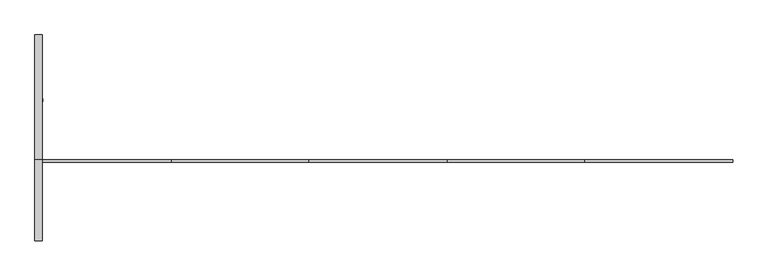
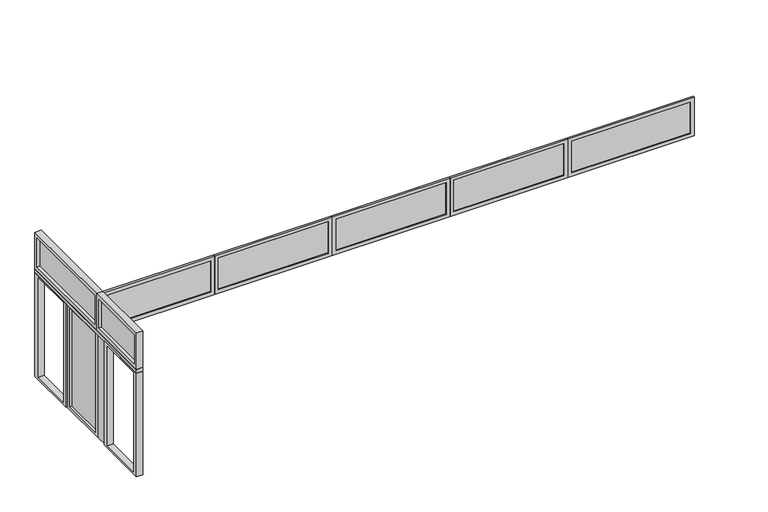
"""IFC4 building model written with IfcOpenShell, lengths in millimetres: beam geometry, partition and doors-CONFIG-4 : partition and doors-CONFIG-4."""

import ifcopenshell
import ifcopenshell.guid

model = None  # the IFC model being written
_history = None  # IfcOwnerHistory: only IFC2X3 demands one
_inside = {}  # id of a spatial element -> (the spatial element, [elements in it])
_under = {}  # id of a project, library or spatial element -> (it, [spatial elements below it])
_declared = {}  # id of a project -> (the project, [libraries it declares])
_typed = {}  # id of a type object -> (the type object, [elements of that type])
_made_of = {}  # id of a material, layer set ... -> (it, [elements and type objects made of it])


def new_model(schema):
    """Start an empty IFC model of exactly this schema.

    Asked for "IFC4X3", IfcOpenShell would pick the latest addendum, in which some entities
    have other attributes; the version numbers below select the first issue.
    IFC2X3 requires an IfcOwnerHistory on every rooted entity: one is made here for all.
    """
    global model, _history
    if schema == "IFC4X3":
        model = ifcopenshell.file(schema_version=(4, 3, 0, 0))
    else:
        model = ifcopenshell.file(schema=schema)
    _inside.clear()
    _under.clear()
    _declared.clear()
    _typed.clear()
    _made_of.clear()
    _history = None
    if model.schema == "IFC2X3":
        org = make("IfcOrganization", Name="unknown")
        user = make(
            "IfcPersonAndOrganization",
            ThePerson=make("IfcPerson", FamilyName="unknown"),
            TheOrganization=org,
        )
        app = make(
            "IfcApplication",
            ApplicationDeveloper=org,
            Version="unknown",
            ApplicationFullName="unknown",
            ApplicationIdentifier="unknown",
        )
        _history = make(
            "IfcOwnerHistory",
            OwningUser=user,
            OwningApplication=app,
            ChangeAction="ADDED",
            CreationDate=0,
        )
    return model


def make(cls, **values):
    """One entity of the class cls with the attributes given. An attribute that is None is left unset."""
    return model.create_entity(
        cls, **{name: value for name, value in values.items() if value is not None}
    )


def rooted(cls, **values):
    """An entity with a GlobalId (a new one), such as an element, a storey or a relation."""
    return make(cls, GlobalId=ifcopenshell.guid.new(), OwnerHistory=_history, **values)


def si_unit(unit_type, name, prefix=None):
    """IfcSIUnit, for example si_unit("LENGTHUNIT", "METRE", prefix="MILLI")."""
    return make("IfcSIUnit", UnitType=unit_type, Prefix=prefix, Name=name)


def assignment(units):
    """IfcUnitAssignment: the units of a project."""
    return None if units is None else make("IfcUnitAssignment", Units=units)


def point(xyz):
    """IfcCartesianPoint."""
    return None if xyz is None else make("IfcCartesianPoint", Coordinates=xyz)


def direction(xyz):
    """IfcDirection."""
    return None if xyz is None else make("IfcDirection", DirectionRatios=xyz)


def frame(location, z_axis=None, x_axis=None):
    """IfcAxis2Placement3D, a coordinate frame: its origin and axes. An axis left out is left unset."""
    return make(
        "IfcAxis2Placement3D",
        Location=point(location),
        Axis=direction(z_axis),
        RefDirection=direction(x_axis),
    )


def origin():
    """The frame at (0, 0, 0) with its axes left unset."""
    return frame((0.0, 0.0, 0.0))


def place(relative_to, where):
    """IfcLocalPlacement: puts the frame where relative to a parent placement (None: the world)."""
    return make(
        "IfcLocalPlacement", PlacementRelTo=relative_to, RelativePlacement=where
    )


def context(
    kind, dimensions, precision=None, world=None, true_north=None, identifier=None
):
    """IfcGeometricRepresentationContext, for example the 3D "Model" context."""
    return make(
        "IfcGeometricRepresentationContext",
        ContextIdentifier=identifier,
        ContextType=kind,
        CoordinateSpaceDimension=dimensions,
        Precision=precision,
        WorldCoordinateSystem=world,
        TrueNorth=true_north,
    )


def project(units=None, contexts=None):
    """IfcProject with its units and contexts."""
    return rooted(
        "IfcProject",
        Name="project",
        RepresentationContexts=contexts,
        UnitsInContext=assignment(units),
    )


def spatial(cls, under=None, at=None, **own):
    """A site, building, storey or space (cls), placed at a placement, below another one or the project."""
    s = rooted(cls, ObjectPlacement=at, **own)
    if under is not None:
        _under.setdefault(under.id(), (under, []))[1].append(s)
    return s


def polyline(points):
    """IfcPolyline through the points."""
    return make("IfcPolyline", Points=[point(p) for p in points])


def outline(outer, holes=None, kind="AREA"):
    """IfcArbitraryClosedProfileDef: a profile drawn as a closed curve; with holes, ...WithVoids."""
    if holes is None:
        return make("IfcArbitraryClosedProfileDef", ProfileType=kind, OuterCurve=outer)
    return make(
        "IfcArbitraryProfileDefWithVoids",
        ProfileType=kind,
        OuterCurve=outer,
        InnerCurves=holes,
    )


def extrude(swept, where, along, depth):
    """IfcExtrudedAreaSolid: the profile swept, set in the frame where, extruded along a direction by depth."""
    return make(
        "IfcExtrudedAreaSolid",
        SweptArea=swept,
        Position=where,
        ExtrudedDirection=direction(along),
        Depth=depth,
    )


def shape(context_of_items, identifier, shape_type, items):
    """IfcShapeRepresentation: the items that make up one representation, for example the "Body"."""
    return make(
        "IfcShapeRepresentation",
        ContextOfItems=context_of_items,
        RepresentationIdentifier=identifier,
        RepresentationType=shape_type,
        Items=items,
    )


def source(mapping_origin, context_of_items, identifier, shape_type, items):
    """IfcRepresentationMap: a shape defined once, which mapped items show again and again."""
    return make(
        "IfcRepresentationMap",
        MappingOrigin=mapping_origin,
        MappedRepresentation=shape(context_of_items, identifier, shape_type, items),
    )


def transform(
    local_origin,
    x_axis=None,
    y_axis=None,
    z_axis=None,
    scale=None,
    scale2=None,
    scale3=None,
    uniform=True,
):
    """IfcCartesianTransformationOperator3D, or its non-uniform kind. x_axis, y_axis, z_axis: its Axis1, 2, 3."""
    if uniform:
        return make(
            "IfcCartesianTransformationOperator3D",
            Axis1=direction(x_axis),
            Axis2=direction(y_axis),
            LocalOrigin=point(local_origin),
            Scale=scale,
            Axis3=direction(z_axis),
        )
    return make(
        "IfcCartesianTransformationOperator3DnonUniform",
        Axis1=direction(x_axis),
        Axis2=direction(y_axis),
        LocalOrigin=point(local_origin),
        Scale=scale,
        Axis3=direction(z_axis),
        Scale2=scale2,
        Scale3=scale3,
    )


def mapped(mapping_source, mapping_target):
    """IfcMappedItem: shows the shape of a source again, moved by a transform."""
    return make(
        "IfcMappedItem", MappingSource=mapping_source, MappingTarget=mapping_target
    )


def made_of(thing, what):
    """Note that an element or type object is made of a material, layer set ...; save() writes the relation."""
    if what is not None:
        _made_of.setdefault(what.id(), (what, []))[1].append(thing)
    return thing


def element(
    cls,
    number,
    at=None,
    inside=None,
    cuts=None,
    type_object=None,
    material=None,
    context=None,
    identifier="Body",
    shape_type=None,
    held_by="IfcProductDefinitionShape",
    body=None,
    shapes=None,
    **own,
):
    """One element of the class cls, such as IfcWall. Its Tag is "e" and its number.

    at: its placement. inside: the storey or other place that contains it. cuts: it is an
    opening in that element (IfcRelVoidsElement). A single representation is given by context,
    identifier, shape_type and body (its items); several are given by shapes. held_by: the class
    of the entity that holds the representations. save() writes the other relations.
    """
    e = rooted(cls, Tag="e%d" % number, ObjectPlacement=at, **own)
    if body is not None:
        shapes = [shape(context, identifier, shape_type, body)]
    if shapes is not None:
        e.Representation = make(held_by, Representations=shapes)
    if inside is not None:
        _inside.setdefault(inside.id(), (inside, []))[1].append(e)
    if cuts is not None:
        rooted(
            "IfcRelVoidsElement", RelatingBuildingElement=cuts, RelatedOpeningElement=e
        )
    if type_object is not None:
        _typed.setdefault(type_object.id(), (type_object, []))[1].append(e)
    return made_of(e, material)


def aggregate(whole, parts):
    """IfcRelAggregates: a whole, such as a stair, and the parts it consists of."""
    return rooted("IfcRelAggregates", RelatingObject=whole, RelatedObjects=parts)


def save(model, path):
    """Write the relations noted so far, then the file.

    IfcRelAggregates (storeys below a building ...), IfcRelContainedInSpatialStructure (elements
    in a storey), IfcRelDefinesByType, IfcRelAssociatesMaterial and IfcRelDeclares: one each for
    every whole, place, type object, material and project.
    """
    for whole, parts in _under.values():
        aggregate(whole, parts)
    for where, things in _inside.values():
        rooted(
            "IfcRelContainedInSpatialStructure",
            RelatedElements=things,
            RelatingStructure=where,
        )
    for kind, things in _typed.values():
        rooted("IfcRelDefinesByType", RelatedObjects=things, RelatingType=kind)
    for what, things in _made_of.values():
        rooted("IfcRelAssociatesMaterial", RelatedObjects=things, RelatingMaterial=what)
    for by, libraries in _declared.values():
        rooted("IfcRelDeclares", RelatingContext=by, RelatedDefinitions=libraries)
    model.write(path)


def beam_2369a8d3(model_context):
    return source(origin(), model_context, "Body", "SweptSolid", [
        extrude(outline(polyline([(-28.1211825, 408.7771078), (-28.1211825, 2445.7771078), (1013.8788175, 2445.7771078), (1013.8788175, 408.7771078), (-28.1211825, 408.7771078)]), holes=[polyline([(73.8788175, 448.7771078), (911.8788175, 448.7771078), (911.8788175, 2405.7771078), (73.8788175, 2405.7771078), (73.8788175, 448.7771078)])]), frame((2665.722653, 0.0, 0.0), z_axis=(1.0, 0.0, 0.0), x_axis=(0.0, 1.0, 0.0)), (0.0, 0.0, 1.0), 115.0),
        extrude(outline(polyline([(2225.2873135, 408.7771078), (2225.2873135, 2445.7771078), (3236.2873135, 2445.7771078), (3236.2873135, 408.7771078), (2225.2873135, 408.7771078)]), holes=[polyline([(2327.2873135, 448.7771078), (3134.2873135, 448.7771078), (3134.2873135, 2405.7771078), (2327.2873135, 2405.7771078), (2327.2873135, 448.7771078)])]), frame((2665.722653, 0.0, 0.0), z_axis=(1.0, 0.0, 0.0), x_axis=(0.0, 1.0, 0.0)), (0.0, 0.0, 1.0), 115.0),
        extrude(outline(polyline([(2726.5182911, 1330.4873135), (2726.5182911, 2149.0873135), (2767.5182911, 2149.0873135), (2767.5182911, 1330.4873135), (2726.5182911, 1330.4873135)])), frame((0.0, 0.0, 458.7771078), z_axis=(0.0, 0.0, 1.0), x_axis=(1.0, 0.0, 0.0)), (0.0, 0.0, 1.0), 1937.0),
        extrude(outline(polyline([(1254.2873135, 2445.7771078), (2225.2873135, 2445.7771078), (2225.2873135, 408.7771078), (1254.2873135, 408.7771078), (1254.2873135, 2445.7771078)]), holes=[polyline([(1330.4873135, 2395.7771078), (1330.4873135, 458.7771078), (2149.0873135, 458.7771078), (2149.0873135, 2395.7771078), (1330.4873135, 2395.7771078)])]), frame((2685.5182911, 0.0, 0.0), z_axis=(1.0, 0.0, 0.0), x_axis=(0.0, 1.0, 0.0)), (0.0, 0.0, 1.0), 82.0),
        extrude(outline(polyline([(9133.0629525, 1235.4788175), (7093.0629525, 1235.4788175), (7093.0629525, 1254.4788175), (9133.0629525, 1254.4788175), (9133.0629525, 1235.4788175)])), frame((0.0, 0.0, 2549.2610676), z_axis=(0.0, 0.0, 1.0), x_axis=(1.0, 0.0, 0.0)), (0.0, 0.0, 1.0), 621.0),
        extrude(outline(polyline([(3237.2610676, 9206.0629525), (3237.2610676, 7020.0629525), (2482.2610676, 7020.0629525), (2482.2610676, 9206.0629525), (3237.2610676, 9206.0629525)]), holes=[polyline([(3170.2610676, 9133.0629525), (2549.2610676, 9133.0629525), (2549.2610676, 7093.0629525), (3170.2610676, 7093.0629525), (3170.2610676, 9133.0629525)])]), frame((0.0, 1216.4788175, 0.0), z_axis=(0.0, 1.0, 0.0), x_axis=(0.0, 0.0, 1.0)), (0.0, 0.0, 1.0), 38.0),
        extrude(outline(polyline([(11319.0629525, 1235.4788175), (9279.0629525, 1235.4788175), (9279.0629525, 1254.4788175), (11319.0629525, 1254.4788175), (11319.0629525, 1235.4788175)])), frame((0.0, 0.0, 2549.2610676), z_axis=(0.0, 0.0, 1.0), x_axis=(1.0, 0.0, 0.0)), (0.0, 0.0, 1.0), 621.0),
        extrude(outline(polyline([(3237.2610676, 11392.0629525), (3237.2610676, 9206.0629525), (2482.2610676, 9206.0629525), (2482.2610676, 11392.0629525), (3237.2610676, 11392.0629525)]), holes=[polyline([(3170.2610676, 11319.0629525), (2549.2610676, 11319.0629525), (2549.2610676, 9279.0629525), (3170.2610676, 9279.0629525), (3170.2610676, 11319.0629525)])]), frame((0.0, 1216.4788175, 0.0), z_axis=(0.0, 1.0, 0.0), x_axis=(0.0, 0.0, 1.0)), (0.0, 0.0, 1.0), 38.0),
        extrude(outline(polyline([(2723.4182911, 1191.2873135), (2780.9182911, 1191.2873135), (2780.9182911, 35.2873135), (2723.4182911, 35.2873135), (2723.4182911, 1191.2873135)])), frame((0.0, 0.0, 2594.0902583), z_axis=(0.0, 0.0, 1.0), x_axis=(1.0, 0.0, 0.0)), (0.0, 0.0, 1.0), 567.0),
        extrude(outline(polyline([(-27.7126865, 2518.0902583), (-27.7126865, 3237.0902583), (1254.2873135, 3237.0902583), (1254.2873135, 2518.0902583), (-27.7126865, 2518.0902583)]), holes=[polyline([(35.2873135, 2594.0902583), (1191.2873135, 2594.0902583), (1191.2873135, 3161.0902583), (35.2873135, 3161.0902583), (35.2873135, 2594.0902583)])]), frame((2665.9182911, 0.0, 0.0), z_axis=(1.0, 0.0, 0.0), x_axis=(0.0, 1.0, 0.0)), (0.0, 0.0, 1.0), 115.0),
        extrude(outline(polyline([(2723.222653, 3173.2873135), (2780.722653, 3173.2873135), (2780.722653, 1317.2873135), (2723.222653, 1317.2873135), (2723.222653, 3173.2873135)])), frame((0.0, 0.0, 2594.0902583), z_axis=(0.0, 0.0, 1.0), x_axis=(1.0, 0.0, 0.0)), (0.0, 0.0, 1.0), 567.0),
        extrude(outline(polyline([(1254.2873135, 2518.0902583), (1254.2873135, 3237.0902583), (3236.2873135, 3237.0902583), (3236.2873135, 2518.0902583), (1254.2873135, 2518.0902583)]), holes=[polyline([(1317.2873135, 2594.0902583), (3173.2873135, 2594.0902583), (3173.2873135, 3161.0902583), (1317.2873135, 3161.0902583), (1317.2873135, 2594.0902583)])]), frame((2665.722653, 0.0, 0.0), z_axis=(1.0, 0.0, 0.0), x_axis=(0.0, 1.0, 0.0)), (0.0, 0.0, 1.0), 115.0),
        extrude(outline(polyline([(13668.3311491, 1235.4788175), (11466.3311491, 1235.4788175), (11466.3311491, 1254.4788175), (13668.3311491, 1254.4788175), (13668.3311491, 1235.4788175)])), frame((0.0, 0.0, 2549.2610676), z_axis=(0.0, 0.0, 1.0), x_axis=(1.0, 0.0, 0.0)), (0.0, 0.0, 1.0), 621.0),
        extrude(outline(polyline([(3237.2610676, 13741.3311491), (3237.2610676, 11393.3311491), (2482.2610676, 11393.3311491), (2482.2610676, 13741.3311491), (3237.2610676, 13741.3311491)]), holes=[polyline([(3170.2610676, 13668.3311491), (2549.2610676, 13668.3311491), (2549.2610676, 11466.3311491), (3170.2610676, 11466.3311491), (3170.2610676, 13668.3311491)])]), frame((0.0, 1216.4788175, 0.0), z_axis=(0.0, 1.0, 0.0), x_axis=(0.0, 0.0, 1.0)), (0.0, 0.0, 1.0), 38.0),
        extrude(outline(polyline([(6947.0629525, 1235.4788175), (4907.0629525, 1235.4788175), (4907.0629525, 1254.4788175), (6947.0629525, 1254.4788175), (6947.0629525, 1235.4788175)])), frame((0.0, 0.0, 2549.2610676), z_axis=(0.0, 0.0, 1.0), x_axis=(1.0, 0.0, 0.0)), (0.0, 0.0, 1.0), 621.0),
        extrude(outline(polyline([(3237.2610676, 7020.0629525), (3237.2610676, 4834.0629525), (2482.2610676, 4834.0629525), (2482.2610676, 7020.0629525), (3237.2610676, 7020.0629525)]), holes=[polyline([(3170.2610676, 6947.0629525), (2549.2610676, 6947.0629525), (2549.2610676, 4907.0629525), (3170.2610676, 4907.0629525), (3170.2610676, 6947.0629525)])]), frame((0.0, 1216.4788175, 0.0), z_axis=(0.0, 1.0, 0.0), x_axis=(0.0, 0.0, 1.0)), (0.0, 0.0, 1.0), 38.0),
        extrude(outline(polyline([(4767.5182911, 1235.4788175), (2834.5182911, 1235.4788175), (2834.5182911, 1254.4788175), (4767.5182911, 1254.4788175), (4767.5182911, 1235.4788175)])), frame((0.0, 0.0, 2555.2610676), z_axis=(0.0, 0.0, 1.0), x_axis=(1.0, 0.0, 0.0)), (0.0, 0.0, 1.0), 609.0),
        extrude(outline(polyline([(3237.2610676, 4834.5182911), (3237.2610676, 2767.5182911), (2482.2610676, 2767.5182911), (2482.2610676, 4834.5182911), (3237.2610676, 4834.5182911)]), holes=[polyline([(3164.2610676, 4767.5182911), (2555.2610676, 4767.5182911), (2555.2610676, 2834.5182911), (3164.2610676, 2834.5182911), (3164.2610676, 4767.5182911)])]), frame((0.0, 1216.4788175, 0.0), z_axis=(0.0, 1.0, 0.0), x_axis=(0.0, 0.0, 1.0)), (0.0, 0.0, 1.0), 38.0),
        extrude(outline(polyline([(2791.722653, 2172.4788175), (2767.5182911, 2172.4788175), (2767.5182911, 2225.2873135), (2791.722653, 2225.2873135), (2791.722653, 2172.4788175)])), frame((0.0, 0.0, 408.7771078), z_axis=(0.0, 0.0, 1.0), x_axis=(1.0, 0.0, 0.0)), (0.0, 0.0, 1.0), 2037.0),
        extrude(outline(polyline([(2767.5182911, 1254.2873135), (2767.5182911, 1014.2916755), (2685.5182911, 1014.2916755), (2685.5182911, 1254.2873135), (2767.5182911, 1254.2873135)])), frame((0.0, 0.0, 408.7771078), z_axis=(0.0, 0.0, 1.0), x_axis=(1.0, 0.0, 0.0)), (0.0, 0.0, 1.0), 2037.0),
        extrude(outline(polyline([(2780.722653, 3236.2873135), (2780.722653, -28.1211825), (2665.722653, -28.1211825), (2665.722653, 3236.2873135), (2780.722653, 3236.2873135)])), frame((0.0, 0.0, 2445.7771078), z_axis=(0.0, 0.0, 1.0), x_axis=(1.0, 0.0, 0.0)), (0.0, 0.0, 1.0), 72.3131505),
    ])


if __name__ == "__main__":
    model = new_model("IFC4")
    model_context = context("Model", 3, world=origin())
    ifc_project = project(units=[si_unit("LENGTHUNIT", "METRE", prefix="MILLI")], contexts=[model_context])
    site = spatial("IfcSite", under=ifc_project)
    building = spatial("IfcBuilding", under=site)
    placement = place(None, origin())
    beam_shape = beam_2369a8d3(model_context)
    element("IfcBeam", 1, ObjectType="partition and doors-CONFIG-4 : partition and doors-CONFIG-4", at=placement, inside=building, context=model_context, shape_type="MappedRepresentation", body=[
        mapped(beam_shape, transform((0.0, 0.0, 0.0), x_axis=(1.0, 0.0, 0.0), y_axis=(0.0, 1.0, 0.0), z_axis=(0.0, 0.0, 1.0))),
    ])
    save(model, "model.ifc")
